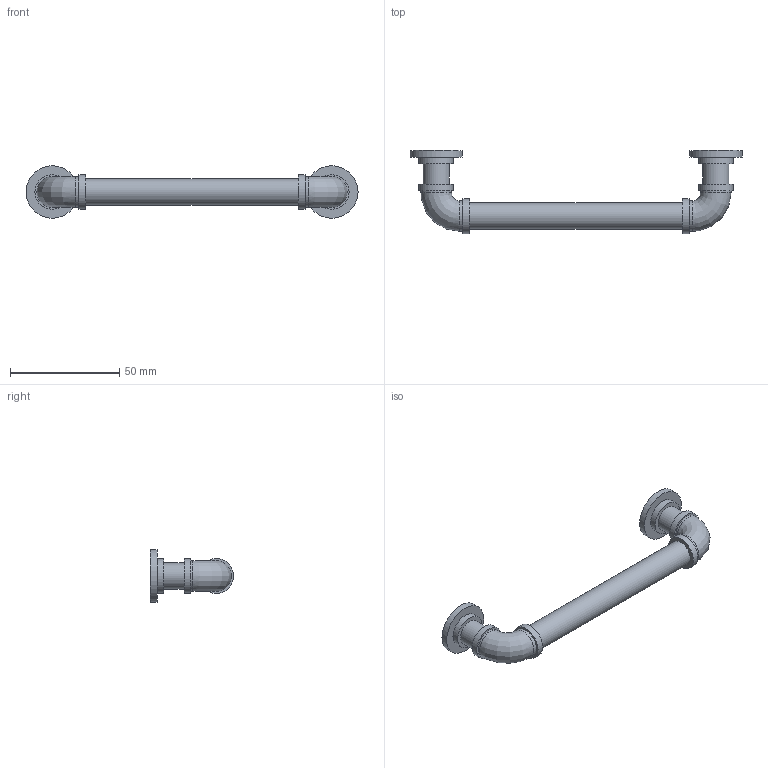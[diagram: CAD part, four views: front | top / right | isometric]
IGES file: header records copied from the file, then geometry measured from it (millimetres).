
Start section: Data from Parasolid IGES Translator 20.0.26, Copyright(c) 2006 Siemens P LM Software. All Rights Reserved.
Global section: file name: 9266562.igs; native system: By Siemens PLM Incorporated; preprocessor: XPlus GENERIC/IGES 20.0.26; author: Noname; organization: Noname; date: 20200630.121302; units: millimetre
Bounding box: 152 x 38 x 24 mm (x, y, z)
Surface area: 9705 mm2 (no closed solid volume)
Topology: 0 solids, 0 shells, 35 faces, 114 edges, 86 vertices
Faces by surface type: revolution 19, extrusion 16
